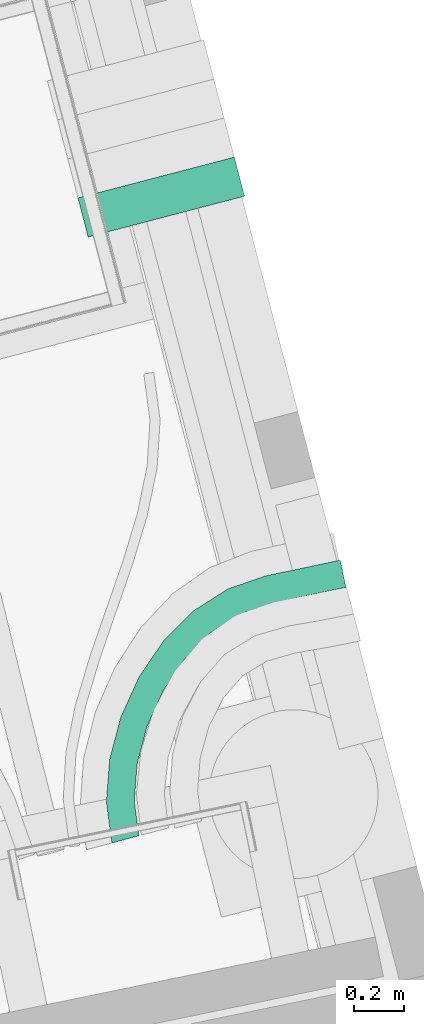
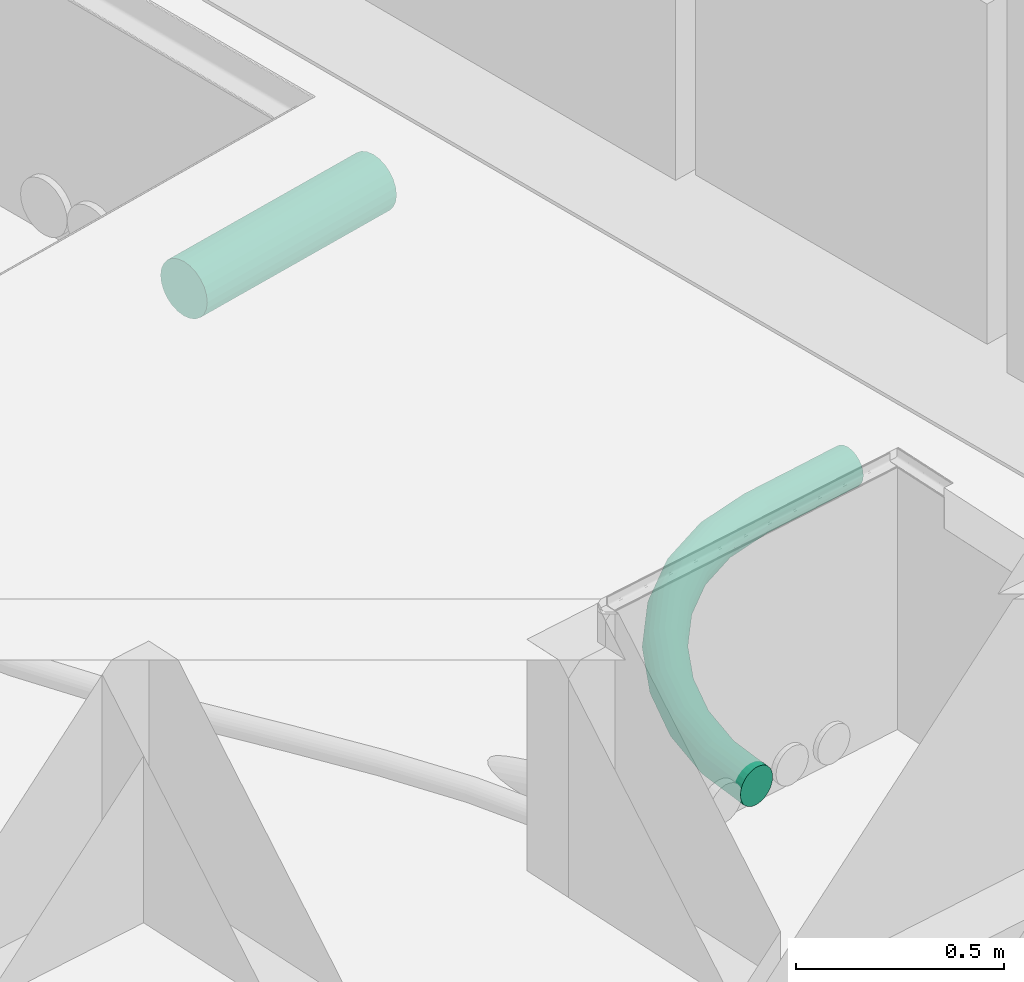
# One storey, part 26 of 29: 2 flow segments.
"""IFC2X3 building model written with IfcOpenShell, lengths in centimetres."""

import ifcopenshell
import ifcopenshell.guid

model = None  # the IFC model being written
_history = None  # IfcOwnerHistory: only IFC2X3 demands one
_inside = {}  # id of a spatial element -> (the spatial element, [elements in it])
_under = {}  # id of a project, library or spatial element -> (it, [spatial elements below it])
_declared = {}  # id of a project -> (the project, [libraries it declares])
_typed = {}  # id of a type object -> (the type object, [elements of that type])
_made_of = {}  # id of a material, layer set ... -> (it, [elements and type objects made of it])


def new_model(schema):
    """Start an empty IFC model of exactly this schema.

    Asked for "IFC4X3", IfcOpenShell would pick the latest addendum, in which some entities
    have other attributes; the version numbers below select the first issue.
    IFC2X3 requires an IfcOwnerHistory on every rooted entity: one is made here for all.
    """
    global model, _history
    if schema == "IFC4X3":
        model = ifcopenshell.file(schema_version=(4, 3, 0, 0))
    else:
        model = ifcopenshell.file(schema=schema)
    _inside.clear()
    _under.clear()
    _declared.clear()
    _typed.clear()
    _made_of.clear()
    _history = None
    if model.schema == "IFC2X3":
        org = make("IfcOrganization", Name="unknown")
        user = make(
            "IfcPersonAndOrganization",
            ThePerson=make("IfcPerson", FamilyName="unknown"),
            TheOrganization=org,
        )
        app = make(
            "IfcApplication",
            ApplicationDeveloper=org,
            Version="unknown",
            ApplicationFullName="unknown",
            ApplicationIdentifier="unknown",
        )
        _history = make(
            "IfcOwnerHistory",
            OwningUser=user,
            OwningApplication=app,
            ChangeAction="ADDED",
            CreationDate=0,
        )
    return model


def make(cls, **values):
    """One entity of the class cls with the attributes given. An attribute that is None is left unset."""
    return model.create_entity(
        cls, **{name: value for name, value in values.items() if value is not None}
    )


def entity(cls, *values):
    """Any entity or typed value of the class cls, its attributes in the order of the schema. None: left unset."""
    e = model.create_entity(cls)
    for i, value in enumerate(values):
        if value is not None:
            e[i] = value
    return e


def rooted(cls, **values):
    """An entity with a GlobalId (a new one), such as an element, a storey or a relation."""
    return make(cls, GlobalId=ifcopenshell.guid.new(), OwnerHistory=_history, **values)


def si_unit(unit_type, name, prefix=None):
    """IfcSIUnit, for example si_unit("LENGTHUNIT", "METRE", prefix="MILLI")."""
    return make("IfcSIUnit", UnitType=unit_type, Prefix=prefix, Name=name)


def converted_unit(unit_type, name, factor, base, dimensions=None, offset=None):
    """IfcConversionBasedUnit, such as the inch: factor (a typed value) times the base unit."""
    return make(
        "IfcConversionBasedUnit"
        if offset is None
        else "IfcConversionBasedUnitWithOffset",
        ConversionOffset=offset,
        Dimensions=None
        if dimensions is None
        else entity("IfcDimensionalExponents", *dimensions),
        UnitType=unit_type,
        Name=name,
        ConversionFactor=make(
            "IfcMeasureWithUnit", ValueComponent=factor, UnitComponent=base
        ),
    )


def derived_unit(unit_type, elements):
    """IfcDerivedUnit: a product of units, each with its exponent."""
    return make(
        "IfcDerivedUnit",
        Elements=[
            make("IfcDerivedUnitElement", Unit=unit, Exponent=power)
            for unit, power in elements
        ],
        UnitType=unit_type,
    )


def assignment(units):
    """IfcUnitAssignment: the units of a project."""
    return None if units is None else make("IfcUnitAssignment", Units=units)


def point(xyz):
    """IfcCartesianPoint."""
    return None if xyz is None else make("IfcCartesianPoint", Coordinates=xyz)


def direction(xyz):
    """IfcDirection."""
    return None if xyz is None else make("IfcDirection", DirectionRatios=xyz)


def frame(location, z_axis=None, x_axis=None):
    """IfcAxis2Placement3D, a coordinate frame: its origin and axes. An axis left out is left unset."""
    return make(
        "IfcAxis2Placement3D",
        Location=point(location),
        Axis=direction(z_axis),
        RefDirection=direction(x_axis),
    )


def origin():
    """The frame at (0, 0, 0) with its axes left unset."""
    return frame((0.0, 0.0, 0.0))


def place(relative_to, where):
    """IfcLocalPlacement: puts the frame where relative to a parent placement (None: the world)."""
    return make(
        "IfcLocalPlacement", PlacementRelTo=relative_to, RelativePlacement=where
    )


def context(
    kind, dimensions, precision=None, world=None, true_north=None, identifier=None
):
    """IfcGeometricRepresentationContext, for example the 3D "Model" context."""
    return make(
        "IfcGeometricRepresentationContext",
        ContextIdentifier=identifier,
        ContextType=kind,
        CoordinateSpaceDimension=dimensions,
        Precision=precision,
        WorldCoordinateSystem=world,
        TrueNorth=true_north,
    )


def subcontext(parent, identifier, kind, view, scale=None):
    """IfcGeometricRepresentationSubContext, for example "Body" below "Model"."""
    return make(
        "IfcGeometricRepresentationSubContext",
        ContextIdentifier=identifier,
        ContextType=kind,
        ParentContext=parent,
        TargetScale=scale,
        TargetView=view,
    )


def project(units=None, contexts=None):
    """IfcProject with its units and contexts."""
    return rooted(
        "IfcProject",
        Name="project",
        RepresentationContexts=contexts,
        UnitsInContext=assignment(units),
    )


def spatial(cls, under=None, at=None, **own):
    """A site, building, storey or space (cls), placed at a placement, below another one or the project."""
    s = rooted(cls, ObjectPlacement=at, **own)
    if under is not None:
        _under.setdefault(under.id(), (under, []))[1].append(s)
    return s


def faces_of(points, faces, orient=None, outer=None):
    """IfcFace entities. A face is a list of loops; a loop is a list of indices into points, from 0.

    orient and outer hold one flag for each loop. By default every Orientation is true, the
    first loop of a face is its IfcFaceOuterBound and the others are IfcFaceBound.
    """
    made = []
    for i, loops in enumerate(faces):
        bounds = []
        for j, loop in enumerate(loops):
            is_outer = j == 0 if outer is None else outer[i][j]
            bounds.append(
                make(
                    "IfcFaceOuterBound" if is_outer else "IfcFaceBound",
                    Bound=make("IfcPolyLoop", Polygon=[points[k] for k in loop]),
                    Orientation=True if orient is None else orient[i][j],
                )
            )
        made.append(make("IfcFace", Bounds=bounds))
    return made


def faceted_brep(points, faces, orient=None, outer=None, voids=None):
    """IfcFacetedBrep: a solid bounded by flat faces; with voids (closed shells), ...WithVoids."""
    shared = [point(p) for p in points]
    hull = make("IfcClosedShell", CfsFaces=faces_of(shared, faces, orient, outer))
    if voids is None:
        return make("IfcFacetedBrep", Outer=hull)
    return make(
        "IfcFacetedBrepWithVoids",
        Outer=hull,
        Voids=[
            make(cls, CfsFaces=faces_of(shared, fs, o, b)) for cls, fs, o, b in voids
        ],
    )


def shape(context_of_items, identifier, shape_type, items):
    """IfcShapeRepresentation: the items that make up one representation, for example the "Body"."""
    return make(
        "IfcShapeRepresentation",
        ContextOfItems=context_of_items,
        RepresentationIdentifier=identifier,
        RepresentationType=shape_type,
        Items=items,
    )


def made_of(thing, what):
    """Note that an element or type object is made of a material, layer set ...; save() writes the relation."""
    if what is not None:
        _made_of.setdefault(what.id(), (what, []))[1].append(thing)
    return thing


def type_object(cls, material=None, **own):
    """A type object (cls), such as IfcWallType, which elements share."""
    return made_of(rooted(cls, **own), material)


def element(
    cls,
    number,
    at=None,
    inside=None,
    cuts=None,
    type_object=None,
    material=None,
    context=None,
    identifier="Body",
    shape_type=None,
    held_by="IfcProductDefinitionShape",
    body=None,
    shapes=None,
    **own,
):
    """One element of the class cls, such as IfcWall. Its Tag is "e" and its number.

    at: its placement. inside: the storey or other place that contains it. cuts: it is an
    opening in that element (IfcRelVoidsElement). A single representation is given by context,
    identifier, shape_type and body (its items); several are given by shapes. held_by: the class
    of the entity that holds the representations. save() writes the other relations.
    """
    e = rooted(cls, Tag="e%d" % number, ObjectPlacement=at, **own)
    if body is not None:
        shapes = [shape(context, identifier, shape_type, body)]
    if shapes is not None:
        e.Representation = make(held_by, Representations=shapes)
    if inside is not None:
        _inside.setdefault(inside.id(), (inside, []))[1].append(e)
    if cuts is not None:
        rooted(
            "IfcRelVoidsElement", RelatingBuildingElement=cuts, RelatedOpeningElement=e
        )
    if type_object is not None:
        _typed.setdefault(type_object.id(), (type_object, []))[1].append(e)
    return made_of(e, material)


def aggregate(whole, parts):
    """IfcRelAggregates: a whole, such as a stair, and the parts it consists of."""
    return rooted("IfcRelAggregates", RelatingObject=whole, RelatedObjects=parts)


def save(model, path):
    """Write the relations noted so far, then the file.

    IfcRelAggregates (storeys below a building ...), IfcRelContainedInSpatialStructure (elements
    in a storey), IfcRelDefinesByType, IfcRelAssociatesMaterial and IfcRelDeclares: one each for
    every whole, place, type object, material and project.
    """
    for whole, parts in _under.values():
        aggregate(whole, parts)
    for where, things in _inside.values():
        rooted(
            "IfcRelContainedInSpatialStructure",
            RelatedElements=things,
            RelatingStructure=where,
        )
    for kind, things in _typed.values():
        rooted("IfcRelDefinesByType", RelatedObjects=things, RelatingType=kind)
    for what, things in _made_of.values():
        rooted("IfcRelAssociatesMaterial", RelatedObjects=things, RelatingMaterial=what)
    for by, libraries in _declared.values():
        rooted("IfcRelDeclares", RelatingContext=by, RelatedDefinitions=libraries)
    model.write(path)


model = new_model("IFC2X3")

# Units and contexts
model_context = context("Model", 3, precision=0.001, world=origin(), true_north=direction((6.12303176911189e-17, 1.0)))
body_context = subcontext(model_context, "Body", "Model", "MODEL_VIEW")
ifc_project = project(units=[si_unit("LENGTHUNIT", "METRE", prefix="CENTI"), si_unit("AREAUNIT", "SQUARE_METRE"), si_unit("VOLUMEUNIT", "CUBIC_METRE"), converted_unit("PLANEANGLEUNIT", "DEGREE", entity("IfcRatioMeasure", 0.0174532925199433), si_unit("PLANEANGLEUNIT", "RADIAN"), dimensions=[0, 0, 0, 0, 0, 0, 0]), si_unit("MASSUNIT", "GRAM", prefix="KILO"), derived_unit("MASSDENSITYUNIT", [(si_unit("MASSUNIT", "GRAM", prefix="KILO"), 1), (si_unit("LENGTHUNIT", "METRE"), -3)]), si_unit("TIMEUNIT", "SECOND"), si_unit("FREQUENCYUNIT", "HERTZ"), si_unit("THERMODYNAMICTEMPERATUREUNIT", "DEGREE_CELSIUS"), derived_unit("THERMALTRANSMITTANCEUNIT", [(si_unit("MASSUNIT", "GRAM", prefix="KILO"), 1), (si_unit("THERMODYNAMICTEMPERATUREUNIT", "KELVIN"), -1), (si_unit("TIMEUNIT", "SECOND"), -3)]), derived_unit("VOLUMETRICFLOWRATEUNIT", [(si_unit("LENGTHUNIT", "METRE"), 3), (si_unit("TIMEUNIT", "SECOND"), -1)]), si_unit("ELECTRICCURRENTUNIT", "AMPERE"), si_unit("ELECTRICVOLTAGEUNIT", "VOLT"), si_unit("POWERUNIT", "WATT"), si_unit("FORCEUNIT", "NEWTON"), si_unit("ILLUMINANCEUNIT", "LUX"), si_unit("LUMINOUSFLUXUNIT", "LUMEN"), si_unit("LUMINOUSINTENSITYUNIT", "CANDELA"), derived_unit("USERDEFINED", [(si_unit("MASSUNIT", "GRAM", prefix="KILO"), -1), (si_unit("LENGTHUNIT", "METRE"), -2), (si_unit("TIMEUNIT", "SECOND"), 3), (si_unit("LUMINOUSFLUXUNIT", "LUMEN"), 1)]), derived_unit("LINEARVELOCITYUNIT", [(si_unit("LENGTHUNIT", "METRE"), 1), (si_unit("TIMEUNIT", "SECOND"), -1)]), si_unit("PRESSUREUNIT", "PASCAL"), derived_unit("USERDEFINED", [(si_unit("LENGTHUNIT", "METRE"), -2), (si_unit("MASSUNIT", "GRAM", prefix="KILO"), 1), (si_unit("TIMEUNIT", "SECOND"), -2)])], contexts=[model_context])

# Site, building, storey
site_placement = place(None, origin())
site = spatial("IfcSite", under=ifc_project, at=site_placement, Name="Default", CompositionType="ELEMENT")
building_placement = place(site_placement, origin())
building = spatial("IfcBuilding", under=site, at=building_placement, Name="CAGE 03", CompositionType="ELEMENT")
storey_placement = place(building_placement, frame((0.0, 0.0, -34.0)))
storey = spatial("IfcBuildingStorey", under=building, at=storey_placement, Name="+3.66", CompositionType="ELEMENT", Elevation=-34.0000000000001)

# Flow segments
duct_segment_type = type_object("IfcDuctSegmentType", Name="Gaine flexible circulaire:Flex - Round", PredefinedType="FLEXIBLESEGMENT")
flow_segment_1_placement = place(storey_placement, frame((11579.1621650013, 3782.38554845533, -79.1595272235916)))
element("IfcFlowSegment", 1, at=flow_segment_1_placement, inside=storey, type_object=duct_segment_type, Name="Gaine flexible circulaire:Flex - Round", ObjectType="Gaine flexible circulaire:Flex - Round", context=body_context, shape_type="Brep", body=[
    faceted_brep([(0.22840603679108, 15.3765792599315, 10.2300795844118), (0.15952722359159, 15.6403269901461, 8.1595272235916), (0.22840603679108, 15.3765792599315, 6.08897486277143), (0.430348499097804, 14.6033100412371, 4.1595272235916), (0.751592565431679, 13.3732163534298, 2.50267297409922), (1.17024598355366, 11.7701270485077, 1.23132399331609), (1.65777821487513, 9.90329001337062, 0.432120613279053), (2.18096474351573, 7.89992710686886, 0.159527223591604), (2.70415127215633, 5.89656420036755, 0.432120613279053), (3.1916835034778, 4.02972716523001, 1.23132399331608), (3.61033692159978, 2.42663786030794, 2.50267297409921), (3.93158098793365, 1.19654417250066, 4.15952722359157), (4.13352345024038, 0.423274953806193, 6.08897486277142), (4.20240226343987, 0.15952722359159, 8.15952722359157), (4.13352345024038, 0.423274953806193, 10.2300795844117), (3.93158098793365, 1.19654417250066, 12.1595272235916), (3.61033692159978, 2.42663786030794, 13.816381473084), (3.1916835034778, 4.02972716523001, 15.0877304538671), (2.70415127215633, 5.89656420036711, 15.8869338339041), (2.18096474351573, 7.89992710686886, 16.1595272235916), (1.65777821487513, 9.90329001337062, 15.8869338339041), (1.17024598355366, 11.7701270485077, 15.0877304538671), (0.751592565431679, 13.3732163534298, 13.816381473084), (0.430348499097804, 14.6033100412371, 12.1595272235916), (31.22355741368, 23.4710915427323, 6.08897486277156), (62.2187087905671, 31.5656038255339, 6.08897486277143), (62.4206512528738, 30.7923346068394, 4.1595272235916), (31.4254998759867, 22.6978223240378, 4.15952722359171), (31.1546786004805, 23.7348392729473, 8.1595272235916), (62.1498299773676, 31.8293515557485, 8.1595272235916), (62.7418953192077, 29.5622409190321, 2.50267297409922), (31.7467439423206, 21.467728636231, 2.50267297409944), (32.1653973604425, 19.8646393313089, 1.23132399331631), (63.1605487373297, 27.9591516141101, 1.23132399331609), (63.6480809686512, 26.0923145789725, 0.432120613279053), (32.652929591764, 17.9978022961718, 0.432120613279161), (64.1712674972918, 24.0889516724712, 0.159527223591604), (33.1761161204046, 15.9944393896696, 0.159527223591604), (64.6944540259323, 22.0855887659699, 0.432120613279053), (33.6993026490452, 13.9910764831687, 0.43212061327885), (65.1819862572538, 20.2187517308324, 1.23132399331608), (34.1868348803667, 12.1242394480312, 1.23132399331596), (65.6006396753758, 18.6156624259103, 2.50267297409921), (34.6054882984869, 10.5211501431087, 2.50267297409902), (34.9267323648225, 9.2910564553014, 4.15952722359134), (65.9218837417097, 17.385568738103, 4.15952722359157), (66.1238262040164, 16.6122995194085, 6.08897486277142), (35.1286748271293, 8.51778723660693, 6.08897486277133), (66.1927050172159, 16.3485517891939, 8.15952722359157), (35.1975536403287, 8.2540395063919, 8.15952722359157), (66.1238262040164, 16.6122995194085, 10.2300795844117), (35.1286748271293, 8.51778723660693, 10.2300795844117), (65.9218837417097, 17.385568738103, 12.1595272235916), (34.9267323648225, 9.2910564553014, 12.1595272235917), (65.6006396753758, 18.6156624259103, 13.816381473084), (34.6054882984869, 10.5211501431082, 13.8163814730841), (34.1868348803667, 12.1242394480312, 15.0877304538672), (65.1819862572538, 20.2187517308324, 15.0877304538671), (64.6944540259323, 22.0855887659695, 15.8869338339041), (33.6993026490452, 13.9910764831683, 15.8869338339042), (64.1712674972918, 24.0889516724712, 16.1595272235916), (33.1761161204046, 15.9944393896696, 16.1595272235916), (63.6480809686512, 26.0923145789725, 15.8869338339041), (32.652929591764, 17.9978022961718, 15.886933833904), (63.1605487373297, 27.9591516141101, 15.0877304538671), (32.1653973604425, 19.8646393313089, 15.0877304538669), (62.7418953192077, 29.5622409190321, 13.816381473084), (31.7467439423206, 21.4677286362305, 13.8163814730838), (31.4254998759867, 22.6978223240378, 12.1595272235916), (62.4206512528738, 30.7923346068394, 12.1595272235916), (62.2187087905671, 31.5656038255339, 10.2300795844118), (31.22355741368, 23.4710915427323, 10.2300795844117)], [[[0, 1, 2, 3, 4, 5, 6, 7, 8, 9, 10, 11, 12, 13, 14, 15, 16, 17, 18, 19, 20, 21, 22, 23]], [[24, 25, 26, 27, 3, 2]], [[28, 29, 25, 24, 2, 1]], [[27, 26, 30, 31, 4, 3]], [[6, 5, 32, 33, 34, 35]], [[7, 6, 35, 34, 36, 37]], [[31, 30, 33, 32, 5, 4]], [[8, 7, 37, 36, 38, 39]], [[9, 8, 39, 38, 40, 41]], [[41, 40, 42, 43, 10, 9]], [[12, 11, 44, 45, 46, 47]], [[13, 12, 47, 46, 48, 49]], [[43, 42, 45, 44, 11, 10]], [[14, 13, 49, 48, 50, 51]], [[15, 14, 51, 50, 52, 53]], [[53, 52, 54, 55, 16, 15]], [[18, 17, 56, 57, 58, 59]], [[19, 18, 59, 58, 60, 61]], [[55, 54, 57, 56, 17, 16]], [[20, 19, 61, 60, 62, 63]], [[21, 20, 63, 62, 64, 65]], [[65, 64, 66, 67, 22, 21]], [[0, 23, 68, 69, 70, 71]], [[1, 0, 71, 70, 29, 28]], [[67, 66, 69, 68, 23, 22]], [[69, 66, 64, 62, 60, 58, 57, 54, 52, 50, 48, 46, 45, 42, 40, 38, 36, 34, 33, 30, 26, 25, 29, 70]]]),
])
flow_segment_2_placement = place(storey_placement, frame((11590.4221558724, 3542.11011800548, -79.1595272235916)))
element("IfcFlowSegment", 2, at=flow_segment_2_placement, inside=storey, type_object=duct_segment_type, Name="Gaine flexible circulaire:Flex - Round", ObjectType="Gaine flexible circulaire:Flex - Round", context=body_context, shape_type="Brep", body=[
    faceted_brep([(3.15594662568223, 0.348971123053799, 8.40952722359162), (2.62496367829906, 0.207709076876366, 7.08303197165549), (2.44385528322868, 0.15952722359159, 5.65952722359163), (2.62496367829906, 0.207709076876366, 4.23602247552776), (3.15594662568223, 0.348971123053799, 2.90952722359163), (4.00061851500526, 0.573686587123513, 1.77043992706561), (5.10141635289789, 0.866541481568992, 0.896387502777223), (6.38332258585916, 1.20757822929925, 0.346935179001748), (7.75897742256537, 1.57355573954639, 0.159527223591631), (9.13463225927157, 1.93953324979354, 0.346935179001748), (10.4165384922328, 2.2805699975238, 0.896387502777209), (11.5173363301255, 2.57342489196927, 1.7704399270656), (12.3620082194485, 2.79814035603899, 2.90952722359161), (12.8929911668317, 2.93940240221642, 4.23602247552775), (13.0740995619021, 2.9875842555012, 5.65952722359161), (12.8929911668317, 2.93940240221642, 7.08303197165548), (12.3620082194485, 2.79814035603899, 8.40952722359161), (11.5173363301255, 2.57342489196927, 9.54861452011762), (10.4165384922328, 2.2805699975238, 10.422666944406), (9.13463225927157, 1.93953324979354, 10.9721192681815), (7.75897742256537, 1.57355573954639, 11.1595272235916), (6.38332258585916, 1.20757822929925, 10.9721192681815), (5.10141635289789, 0.866541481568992, 10.422666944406), (4.00061851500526, 0.573686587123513, 9.54861452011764), (2.20851179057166, 1.04414828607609, 5.65952722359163), (2.39269804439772, 1.08076092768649, 4.23602247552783), (2.93270481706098, 1.18810376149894, 2.90952722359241), (3.79173153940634, 1.35886155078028, 1.77043992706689), (4.91123695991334, 1.58139743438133, 0.896387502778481), (6.2149286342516, 1.84054595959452, 0.346935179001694), (7.61396212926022, 2.1186465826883, 0.159527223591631), (9.01299562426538, 2.39674720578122, 0.3469351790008), (10.3166872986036, 2.65589573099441, 0.896387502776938), (11.4361927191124, 2.87843161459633, 1.7704399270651), (12.835226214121, 3.15653223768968, 4.23602247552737), (13.0194124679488, 3.19314487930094, 5.65952722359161), (12.2952194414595, 3.0491894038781, 2.90952722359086), (12.2952194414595, 3.0491894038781, 8.40952722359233), (11.4361927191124, 2.87843161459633, 9.5486145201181), (12.835226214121, 3.15653223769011, 7.0830319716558), (9.01299562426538, 2.39674720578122, 10.9721192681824), (7.61396212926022, 2.1186465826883, 11.1595272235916), (10.3166872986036, 2.65589573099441, 10.4226669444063), (6.2149286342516, 1.84054595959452, 10.9721192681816), (4.91123695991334, 1.58139743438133, 10.4226669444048), (3.79173153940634, 1.35886155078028, 9.54861452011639), (2.93270481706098, 1.18810376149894, 8.40952722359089), (2.39269804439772, 1.08076092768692, 7.0830319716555), (92.8875985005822, 112.274628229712, 5.65952722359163), (92.9266917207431, 112.091343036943, 7.08303197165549), (93.0413072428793, 111.553978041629, 8.40952722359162), (93.2236342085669, 110.699153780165, 9.54861452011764), (93.4612473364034, 109.585125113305, 10.422666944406), (93.7379536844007, 108.287811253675, 10.9721192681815), (94.0348961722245, 106.895621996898, 11.1595272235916), (94.3318386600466, 105.503432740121, 10.9721192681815), (94.6085450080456, 104.206118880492, 10.422666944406), (94.8461581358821, 103.092090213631, 9.54861452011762), (95.0284851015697, 102.237265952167, 8.40952722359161), (95.1431006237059, 101.699900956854, 7.08303197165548), (95.1821938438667, 101.516615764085, 5.65952722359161), (95.1431006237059, 101.699900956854, 4.23602247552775), (95.0284851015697, 102.237265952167, 2.90952722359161), (94.8461581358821, 103.092090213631, 1.7704399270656), (94.6085450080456, 104.206118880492, 0.896387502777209), (94.3318386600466, 105.503432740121, 0.346935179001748), (94.0348961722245, 106.895621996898, 0.159527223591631), (93.7379536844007, 108.287811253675, 0.346935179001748), (93.4612473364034, 109.585125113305, 0.896387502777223), (93.2236342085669, 110.699153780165, 1.77043992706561), (93.0413072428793, 111.553978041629, 2.90952722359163), (92.9266917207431, 112.091343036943, 4.23602247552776), (0.15952722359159, 16.4258772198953, 5.65952722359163), (0.347889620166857, 16.4311395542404, 4.2360224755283), (0.900140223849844, 16.4465679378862, 2.909527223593), (1.77864406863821, 16.4711109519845, 1.77043992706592), (2.92353256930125, 16.5030960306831, 0.896387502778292), (4.25678346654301, 16.5403434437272, 0.346935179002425), (5.6875379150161, 16.5803148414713, 0.159527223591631), (7.11829236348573, 16.6202862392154, 0.346935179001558), (8.45154326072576, 16.6575336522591, 0.896387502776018), (9.59643176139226, 16.6895187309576, 1.77043992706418), (10.4749356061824, 16.7140617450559, 2.90952722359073), (11.0271862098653, 16.7294901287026, 4.23602247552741), (11.2155486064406, 16.7347524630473, 5.65952722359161), (11.0271862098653, 16.7294901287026, 7.08303197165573), (10.4749356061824, 16.7140617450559, 8.40952722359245), (9.59643176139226, 16.6895187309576, 9.54861452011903), (7.11829236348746, 16.6202862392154, 10.9721192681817), (5.6875379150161, 16.5803148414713, 11.1595272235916), (8.45154326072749, 16.6575336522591, 10.4226669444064), (4.25678346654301, 16.5403434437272, 10.9721192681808), (2.92353256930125, 16.5030960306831, 10.422666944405), (1.77864406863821, 16.4711109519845, 9.54861452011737), (0.900140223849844, 16.4465679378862, 8.4095272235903), (0.347889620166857, 16.4311395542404, 7.08303197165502), (1.45268056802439, 33.281522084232, 5.65952722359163), (1.63823445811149, 33.250176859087, 4.23602247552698), (2.18225093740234, 33.158277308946, 2.90952722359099), (3.04765618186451, 33.012086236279, 1.77043992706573), (4.17547425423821, 32.8215663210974, 0.896387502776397), (5.48884621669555, 32.5997011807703, 0.346935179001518), (6.89826794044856, 32.3616105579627, 0.159527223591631), (8.30768966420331, 32.1235199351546, 0.346935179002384), (9.62106162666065, 31.9016547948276, 0.896387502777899), (10.7488796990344, 31.7111348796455, 1.77043992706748), (11.6142849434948, 31.564943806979, 2.90952722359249), (12.1583014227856, 31.4730442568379, 4.23602247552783), (12.3438553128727, 31.4416990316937, 5.65952722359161), (12.1583014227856, 31.4730442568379, 7.08303197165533), (11.6142849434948, 31.564943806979, 8.40952722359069), (10.7488796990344, 31.7111348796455, 9.54861452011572), (8.30768966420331, 32.1235199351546, 10.9721192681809), (6.89826794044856, 32.3616105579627, 11.1595272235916), (9.62106162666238, 31.9016547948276, 10.4226669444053), (5.48884621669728, 32.5997011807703, 10.9721192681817), (4.17547425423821, 32.8215663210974, 10.4226669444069), (3.04765618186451, 33.012086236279, 9.54861452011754), (2.18225093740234, 33.158277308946, 8.40952722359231), (1.63823445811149, 33.250176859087, 7.08303197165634), (5.86547590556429, 49.9956060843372, 5.65952722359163), (6.04267141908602, 49.9326023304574, 4.23602247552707), (6.56218237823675, 49.7478846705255, 2.90952722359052), (7.38860496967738, 49.4540413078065, 1.77043992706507), (8.46561985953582, 49.0710971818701, 0.896387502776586), (9.719830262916, 48.625149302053, 0.34693517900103), (11.0657638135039, 48.1465882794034, 0.159527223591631), (12.411697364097, 47.6680272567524, 0.346935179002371), (13.6659077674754, 47.2220793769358, 0.896387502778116), (14.7429226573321, 46.8391352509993, 1.77043992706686), (15.5693452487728, 46.5452918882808, 2.90952722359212), (16.0888562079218, 46.3605742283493, 4.23602247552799), (16.2660517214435, 46.2975704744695, 5.65952722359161), (16.0888562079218, 46.3605742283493, 7.08303197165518), (15.5693452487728, 46.5452918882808, 8.40952722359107), (14.7429226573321, 46.8391352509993, 9.54861452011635), (12.411697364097, 47.6680272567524, 10.9721192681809), (11.0657638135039, 48.1465882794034, 11.1595272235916), (13.6659077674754, 47.2220793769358, 10.4226669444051), (9.719830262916, 48.625149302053, 10.9721192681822), (8.46561985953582, 49.0710971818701, 10.4226669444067), (7.38860496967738, 49.4540413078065, 9.54861452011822), (6.56218237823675, 49.7478846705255, 8.40952722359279), (6.04267141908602, 49.9326023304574, 7.08303197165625), (13.0462294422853, 65.8569693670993, 5.65952722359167), (13.2104121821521, 65.7652220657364, 4.23602247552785), (13.691771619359, 65.4962325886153, 2.90952722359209), (14.4575039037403, 65.0683321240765, 1.77043992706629), (15.45542564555, 64.5106813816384, 0.896387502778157), (16.6175301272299, 63.8612833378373, 0.346935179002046), (17.864621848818, 63.1643933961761, 0.159527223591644), (19.1117135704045, 62.4675034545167, 0.346935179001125), (20.2738180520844, 61.8181054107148, 0.896387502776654), (21.271739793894, 61.2604546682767, 1.77043992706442), (22.0374720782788, 60.8325542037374, 2.90952722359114), (22.5188315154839, 60.5635647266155, 4.23602247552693), (22.6830142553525, 60.4718174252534, 5.65952722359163), (22.5188315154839, 60.5635647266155, 7.08303197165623), (22.0374720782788, 60.8325542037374, 8.40952722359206), (21.271739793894, 61.2604546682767, 9.54861452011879), (19.1117135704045, 62.4675034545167, 10.9721192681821), (17.864621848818, 63.1643933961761, 11.1595272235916), (20.2738180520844, 61.8181054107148, 10.4226669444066), (16.6175301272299, 63.8612833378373, 10.9721192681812), (15.45542564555, 64.5106813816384, 10.4226669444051), (14.4575039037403, 65.0683321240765, 9.54861452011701), (13.691771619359, 65.4962325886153, 8.40952722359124), (13.2104121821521, 65.7652220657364, 7.0830319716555), (22.7011657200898, 80.1512054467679, 5.65952722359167), (22.8466035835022, 80.0317061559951, 4.23602247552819), (23.2730058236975, 79.6813519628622, 2.90952722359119), (23.9513138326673, 79.1240189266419, 1.77043992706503), (24.8353020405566, 78.3976883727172, 0.896387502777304), (25.8647281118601, 77.55185852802, 0.346935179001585), (26.9694383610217, 76.644171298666, 0.159527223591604), (28.0741486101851, 75.7364840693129, 0.346935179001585), (29.1035746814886, 74.8906542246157, 0.896387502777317), (29.9875628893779, 74.164323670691, 1.77043992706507), (30.6658708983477, 73.6069906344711, 2.90952722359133), (31.0922731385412, 73.256636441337, 4.23602247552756), (31.2377110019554, 73.137137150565, 5.65952722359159), (31.0922731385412, 73.256636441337, 7.08303197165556), (30.6658708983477, 73.6069906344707, 8.4095272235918), (29.9875628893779, 74.164323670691, 9.54861452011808), (28.0741486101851, 75.7364840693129, 10.9721192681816), (26.9694383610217, 76.644171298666, 11.1595272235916), (29.1035746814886, 74.8906542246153, 10.4226669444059), (25.8647281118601, 77.5518585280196, 10.9721192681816), (24.8353020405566, 78.3976883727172, 10.4226669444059), (23.9513138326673, 79.1240189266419, 9.54861452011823), (23.2730058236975, 79.6813519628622, 8.40952722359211), (22.8466035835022, 80.0317061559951, 7.08303197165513), (34.5853612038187, 92.1270887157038, 5.65952722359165), (34.7035797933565, 91.9801601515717, 4.23602247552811), (35.0501791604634, 91.5493873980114, 2.90952722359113), (35.6015391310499, 90.8641269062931, 1.77043992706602), (36.3200854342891, 89.9710780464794, 0.896387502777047), (37.1568503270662, 88.9311006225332, 0.346935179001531), (38.0548096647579, 87.8150673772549, 0.159527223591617), (38.9527690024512, 86.6990341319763, 0.346935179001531), (39.7895338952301, 85.6590567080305, 0.896387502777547), (40.5080801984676, 84.7660078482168, 1.77043992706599), (41.0594401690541, 84.0807473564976, 2.90952722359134), (41.406039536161, 83.6499746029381, 4.23602247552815), (41.5242581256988, 83.5030460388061, 5.6595272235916), (41.406039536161, 83.6499746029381, 7.08303197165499), (41.0594401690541, 84.0807473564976, 8.40952722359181), (40.5080801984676, 84.7660078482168, 9.54861452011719), (38.9527690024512, 86.6990341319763, 10.9721192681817), (38.0548096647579, 87.8150673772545, 11.1595272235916), (39.7895338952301, 85.6590567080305, 10.4226669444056), (37.1568503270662, 88.9311006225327, 10.9721192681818), (36.3200854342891, 89.9710780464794, 10.4226669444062), (35.6015391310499, 90.8641269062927, 9.54861452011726), (35.0501791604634, 91.5493873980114, 8.40952722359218), (34.7035797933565, 91.9801601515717, 7.08303197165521), (48.3930302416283, 100.896490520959, 5.65952722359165), (48.4748847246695, 100.726466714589, 4.23602247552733), (48.7148699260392, 100.227982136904, 2.90952722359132), (49.0966312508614, 99.4350076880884, 1.77043992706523), (49.5941522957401, 98.4015832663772, 0.896387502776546), (50.1735278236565, 97.1981350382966, 0.34693517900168), (50.7952743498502, 95.906676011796, 0.159527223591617), (51.4170208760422, 94.6152169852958, 0.34693517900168), (51.9963964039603, 93.4117687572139, 0.896387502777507), (52.4939174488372, 92.3783443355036, 1.77043992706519), (52.8756787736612, 91.5853698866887, 2.90952722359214), (53.1156639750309, 91.0868853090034, 4.23602247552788), (53.1975184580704, 90.9168615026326, 5.6595272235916), (53.1156639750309, 91.0868853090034, 7.08303197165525), (52.8756787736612, 91.5853698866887, 8.40952722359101), (52.4939174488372, 92.3783443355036, 9.54861452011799), (51.4170208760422, 94.6152169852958, 10.9721192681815), (50.7952743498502, 95.906676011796, 11.1595272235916), (51.9963964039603, 93.4117687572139, 10.4226669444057), (50.1735278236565, 97.1981350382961, 10.9721192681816), (49.5941522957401, 98.4015832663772, 10.4226669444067), (49.0966312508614, 99.4350076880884, 9.54861452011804), (48.7148699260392, 100.227982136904, 8.40952722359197), (48.4748847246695, 100.726466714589, 7.083031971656), (63.3284934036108, 106.037724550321, 5.65952722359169), (63.3783381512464, 105.856682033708, 4.23602247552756), (63.5244755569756, 105.325892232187, 2.90952722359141), (63.756946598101, 104.481527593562, 1.7704399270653), (64.0599087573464, 103.381130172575, 0.896387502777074), (64.4127156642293, 102.099690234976, 0.34693517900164), (64.7913241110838, 100.72453579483, 0.159527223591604), (65.1699325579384, 99.3493813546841, 0.346935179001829), (65.5227394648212, 98.0679414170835, 0.896387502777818), (65.8257016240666, 96.9675439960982, 1.77043992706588), (66.058172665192, 96.1231793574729, 2.90952722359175), (66.2043100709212, 95.5923895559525, 4.23602247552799), (66.2541548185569, 95.411347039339, 5.65952722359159), (66.2043100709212, 95.5923895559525, 7.08303197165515), (66.058172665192, 96.1231793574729, 8.40952722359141), (65.8257016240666, 96.9675439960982, 9.54861452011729), (65.1699325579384, 99.3493813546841, 10.9721192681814), (64.7913241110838, 100.72453579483, 11.1595272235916), (65.5227394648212, 98.0679414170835, 10.4226669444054), (64.4127156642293, 102.099690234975, 10.9721192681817), (64.0599087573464, 103.381130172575, 10.4226669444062), (63.756946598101, 104.481527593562, 9.54861452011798), (63.5244755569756, 105.325892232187, 8.40952722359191), (63.3783381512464, 105.856682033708, 7.0830319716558), (78.3273011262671, 108.977413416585, 4.23602247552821), (78.4407507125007, 108.439799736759, 2.90952722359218), (78.28860558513, 109.16078343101, 5.65952722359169), (78.6212229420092, 107.584579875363, 1.77043992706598), (79.1303104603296, 105.172121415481, 0.34693517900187), (79.4242322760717, 103.779287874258, 0.159527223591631), (78.8564189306, 106.470035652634, 0.896387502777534), (79.7181540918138, 102.386454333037, 0.346935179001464), (79.9920456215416, 101.088540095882, 0.896387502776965), (80.2272416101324, 99.9739958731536, 1.7704399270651), (80.4077138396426, 99.1187760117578, 2.90952722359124), (80.5211634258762, 98.5811623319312, 4.23602247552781), (80.5598589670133, 98.3977923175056, 5.65952722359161), (80.5211634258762, 98.5811623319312, 7.08303197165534), (80.4077138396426, 99.1187760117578, 8.40952722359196), (80.2272416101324, 99.973995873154, 9.54861452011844), (79.9920456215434, 101.088540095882, 10.4226669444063), (79.7181540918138, 102.386454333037, 10.9721192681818), (79.4242322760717, 103.779287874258, 11.1595272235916), (79.1303104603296, 105.172121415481, 10.9721192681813), (78.8564189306, 106.470035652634, 10.4226669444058), (78.6212229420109, 107.584579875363, 9.54861452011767), (78.4407507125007, 108.439799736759, 8.40952722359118), (78.3273011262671, 108.977413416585, 7.08303197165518)], [[[0, 1, 2, 3, 4, 5, 6, 7, 8, 9, 10, 11, 12, 13, 14, 15, 16, 17, 18, 19, 20, 21, 22, 23]], [[2, 24, 25, 3]], [[3, 25, 26, 4]], [[4, 26, 27, 5]], [[6, 28, 29, 7]], [[7, 29, 30, 8]], [[5, 27, 28, 6]], [[31, 32, 10, 9]], [[30, 31, 9, 8]], [[10, 32, 33, 11]], [[34, 35, 14, 13]], [[36, 34, 13, 12]], [[11, 33, 36, 12]], [[16, 37, 38, 17]], [[39, 37, 16, 15]], [[14, 35, 39, 15]], [[40, 41, 20, 19]], [[42, 40, 19, 18]], [[38, 42, 18, 17]], [[22, 21, 43, 44]], [[23, 22, 44, 45]], [[20, 41, 43, 21]], [[1, 0, 46, 47]], [[2, 1, 47, 24]], [[45, 46, 0, 23]], [[48, 49, 50, 51, 52, 53, 54, 55, 56, 57, 58, 59, 60, 61, 62, 63, 64, 65, 66, 67, 68, 69, 70, 71]], [[24, 72, 73, 25]], [[25, 73, 74, 26]], [[26, 74, 75, 27]], [[27, 75, 76, 28]], [[28, 76, 77, 29]], [[78, 30, 29, 77]], [[79, 80, 32, 31]], [[78, 79, 31, 30]], [[81, 33, 32, 80]], [[82, 83, 34, 36]], [[82, 36, 33, 81]], [[84, 35, 34, 83]], [[85, 86, 37, 39]], [[84, 85, 39, 35]], [[38, 37, 86, 87]], [[88, 89, 41, 40]], [[90, 88, 40, 42]], [[87, 90, 42, 38]], [[43, 41, 89, 91]], [[44, 43, 91, 92]], [[45, 44, 92, 93]], [[47, 46, 94, 95]], [[24, 47, 95, 72]], [[93, 94, 46, 45]], [[73, 72, 96, 97]], [[74, 73, 97, 98]], [[98, 99, 75, 74]], [[76, 75, 99, 100]], [[77, 76, 100, 101]], [[78, 77, 101, 102]], [[103, 104, 80, 79]], [[102, 103, 79, 78]], [[81, 80, 104, 105]], [[106, 107, 83, 82]], [[105, 106, 82, 81]], [[84, 83, 107, 108]], [[109, 110, 86, 85]], [[108, 109, 85, 84]], [[111, 87, 86, 110]], [[112, 113, 89, 88]], [[114, 112, 88, 90]], [[114, 90, 87, 111]], [[89, 113, 115, 91]], [[91, 115, 116, 92]], [[117, 93, 92, 116]], [[94, 118, 119, 95]], [[95, 119, 96, 72]], [[118, 94, 93, 117]], [[97, 96, 120, 121]], [[98, 97, 121, 122]], [[122, 123, 99, 98]], [[100, 99, 123, 124]], [[101, 100, 124, 125]], [[102, 101, 125, 126]], [[127, 128, 104, 103]], [[126, 127, 103, 102]], [[105, 104, 128, 129]], [[130, 131, 107, 106]], [[129, 130, 106, 105]], [[108, 107, 131, 132]], [[133, 134, 110, 109]], [[132, 133, 109, 108]], [[135, 111, 110, 134]], [[136, 137, 113, 112]], [[138, 136, 112, 114]], [[138, 114, 111, 135]], [[113, 137, 139, 115]], [[115, 139, 140, 116]], [[141, 117, 116, 140]], [[118, 142, 143, 119]], [[119, 143, 120, 96]], [[142, 118, 117, 141]], [[120, 144, 145, 121]], [[121, 145, 146, 122]], [[122, 146, 147, 123]], [[123, 147, 148, 124]], [[124, 148, 149, 125]], [[150, 126, 125, 149]], [[151, 152, 128, 127]], [[150, 151, 127, 126]], [[153, 129, 128, 152]], [[154, 155, 131, 130]], [[154, 130, 129, 153]], [[156, 132, 131, 155]], [[157, 158, 134, 133]], [[156, 157, 133, 132]], [[135, 134, 158, 159]], [[160, 161, 137, 136]], [[162, 160, 136, 138]], [[159, 162, 138, 135]], [[139, 137, 161, 163]], [[140, 139, 163, 164]], [[141, 140, 164, 165]], [[143, 142, 166, 167]], [[120, 143, 167, 144]], [[165, 166, 142, 141]], [[144, 168, 169, 145]], [[145, 169, 170, 146]], [[146, 170, 171, 147]], [[147, 171, 172, 148]], [[148, 172, 173, 149]], [[174, 150, 149, 173]], [[175, 176, 152, 151]], [[174, 175, 151, 150]], [[177, 153, 152, 176]], [[178, 179, 155, 154]], [[178, 154, 153, 177]], [[180, 156, 155, 179]], [[181, 182, 158, 157]], [[180, 181, 157, 156]], [[159, 158, 182, 183]], [[184, 185, 161, 160]], [[186, 184, 160, 162]], [[183, 186, 162, 159]], [[163, 161, 185, 187]], [[164, 163, 187, 188]], [[165, 164, 188, 189]], [[167, 166, 190, 191]], [[144, 167, 191, 168]], [[189, 190, 166, 165]], [[168, 192, 193, 169]], [[169, 193, 194, 170]], [[170, 194, 195, 171]], [[171, 195, 196, 172]], [[172, 196, 197, 173]], [[198, 174, 173, 197]], [[199, 200, 176, 175]], [[198, 199, 175, 174]], [[201, 177, 176, 200]], [[202, 203, 179, 178]], [[202, 178, 177, 201]], [[204, 180, 179, 203]], [[205, 206, 182, 181]], [[204, 205, 181, 180]], [[183, 182, 206, 207]], [[208, 209, 185, 184]], [[210, 208, 184, 186]], [[207, 210, 186, 183]], [[187, 185, 209, 211]], [[188, 187, 211, 212]], [[189, 188, 212, 213]], [[191, 190, 214, 215]], [[168, 191, 215, 192]], [[213, 214, 190, 189]], [[192, 216, 217, 193]], [[193, 217, 218, 194]], [[194, 218, 219, 195]], [[195, 219, 220, 196]], [[196, 220, 221, 197]], [[222, 198, 197, 221]], [[223, 224, 200, 199]], [[222, 223, 199, 198]], [[225, 201, 200, 224]], [[226, 227, 203, 202]], [[226, 202, 201, 225]], [[228, 204, 203, 227]], [[229, 230, 206, 205]], [[228, 229, 205, 204]], [[207, 206, 230, 231]], [[232, 233, 209, 208]], [[234, 232, 208, 210]], [[231, 234, 210, 207]], [[211, 209, 233, 235]], [[212, 211, 235, 236]], [[213, 212, 236, 237]], [[215, 214, 238, 239]], [[192, 215, 239, 216]], [[237, 238, 214, 213]], [[217, 216, 240, 241]], [[218, 217, 241, 242]], [[242, 243, 219, 218]], [[220, 219, 243, 244]], [[221, 220, 244, 245]], [[222, 221, 245, 246]], [[247, 248, 224, 223]], [[246, 247, 223, 222]], [[225, 224, 248, 249]], [[250, 251, 227, 226]], [[249, 250, 226, 225]], [[228, 227, 251, 252]], [[253, 254, 230, 229]], [[252, 253, 229, 228]], [[255, 231, 230, 254]], [[256, 257, 233, 232]], [[258, 256, 232, 234]], [[258, 234, 231, 255]], [[233, 257, 259, 235]], [[235, 259, 260, 236]], [[261, 237, 236, 260]], [[238, 262, 263, 239]], [[239, 263, 240, 216]], [[262, 238, 237, 261]], [[264, 265, 242, 241]], [[266, 264, 241, 240]], [[265, 267, 243, 242]], [[268, 269, 246, 245]], [[270, 268, 245, 244]], [[267, 270, 244, 243]], [[247, 246, 269, 271]], [[248, 247, 271, 272]], [[249, 248, 272, 273]], [[251, 250, 274, 275]], [[252, 251, 275, 276]], [[273, 274, 250, 249]], [[252, 276, 277, 253]], [[253, 277, 278, 254]], [[279, 255, 254, 278]], [[255, 279, 280, 258]], [[258, 280, 281, 256]], [[282, 257, 256, 281]], [[283, 284, 260, 259]], [[282, 283, 259, 257]], [[285, 261, 260, 284]], [[286, 287, 263, 262]], [[286, 262, 261, 285]], [[266, 240, 263, 287]], [[266, 48, 71, 264]], [[264, 71, 70, 265]], [[69, 267, 265, 70]], [[270, 68, 67, 268]], [[268, 67, 66, 269]], [[68, 270, 267, 69]], [[269, 66, 65, 271]], [[271, 65, 64, 272]], [[63, 273, 272, 64]], [[274, 62, 61, 275]], [[275, 61, 60, 276]], [[62, 274, 273, 63]], [[277, 276, 60, 59]], [[278, 277, 59, 58]], [[58, 57, 279, 278]], [[281, 280, 56, 55]], [[282, 281, 55, 54]], [[57, 56, 280, 279]], [[283, 282, 54, 53]], [[284, 283, 53, 52]], [[285, 284, 52, 51]], [[287, 286, 50, 49]], [[266, 287, 49, 48]], [[51, 50, 286, 285]]]),
])

save(model, "model.ifc")
